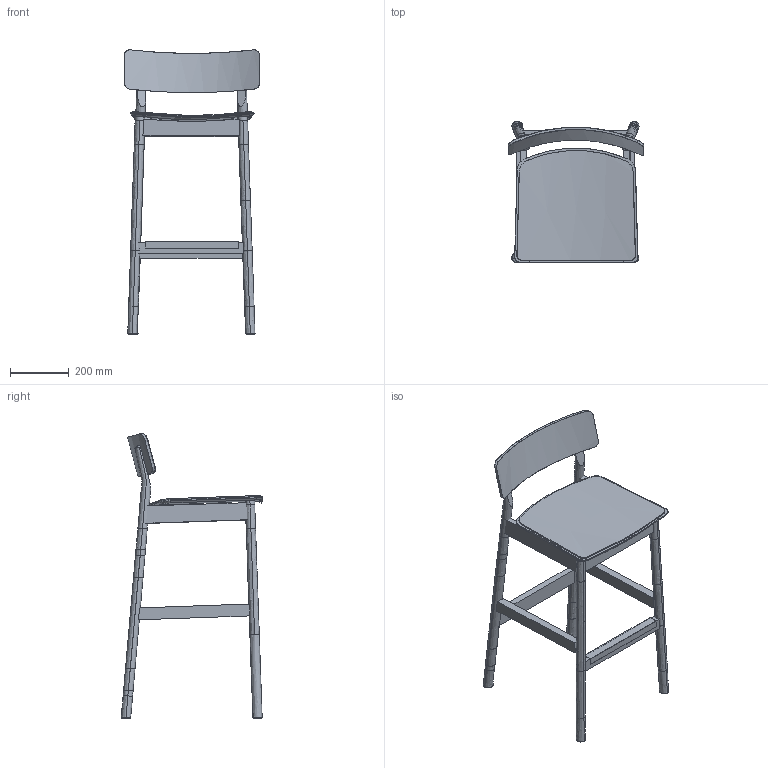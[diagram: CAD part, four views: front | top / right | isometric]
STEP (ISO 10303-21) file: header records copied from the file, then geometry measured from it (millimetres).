
FILE_DESCRIPTION(/* description */ (''),/* implementation_level */ '2;1');
FILE_NAME(/* name */ 'Pause bar stool',/* time_stamp */ '2019-09-17T11:52:39+02:00',/* author */ (''),/* organization */ (''),/* preprocessor_version */ 'ST-DEVELOPER v15',/* originating_system */ '',/* authorisation */ '');
FILE_SCHEMA (('AUTOMOTIVE_DESIGN'));
Length unit declared in the file: millimetre
Products named in the file (1): Document
Bounding box: 459.7 x 480.27 x 964.71 mm (x, y, z)
Surface area: 1608055.7 mm2 (no closed solid volume)
Topology: 0 solids, 188 shells, 193 faces, 807 edges, 803 vertices
Faces by surface type: bspline 131, plane 62
Entity records: 21053 total; most frequent: CARTESIAN_POINT 14981, ORIENTED_EDGE 815, EDGE_CURVE 805, VERTEX_POINT 799, B_SPLINE_CURVE_WITH_KNOTS 695, EDGE_LOOP 196, ADVANCED_FACE 193, FACE_OUTER_BOUND 193
